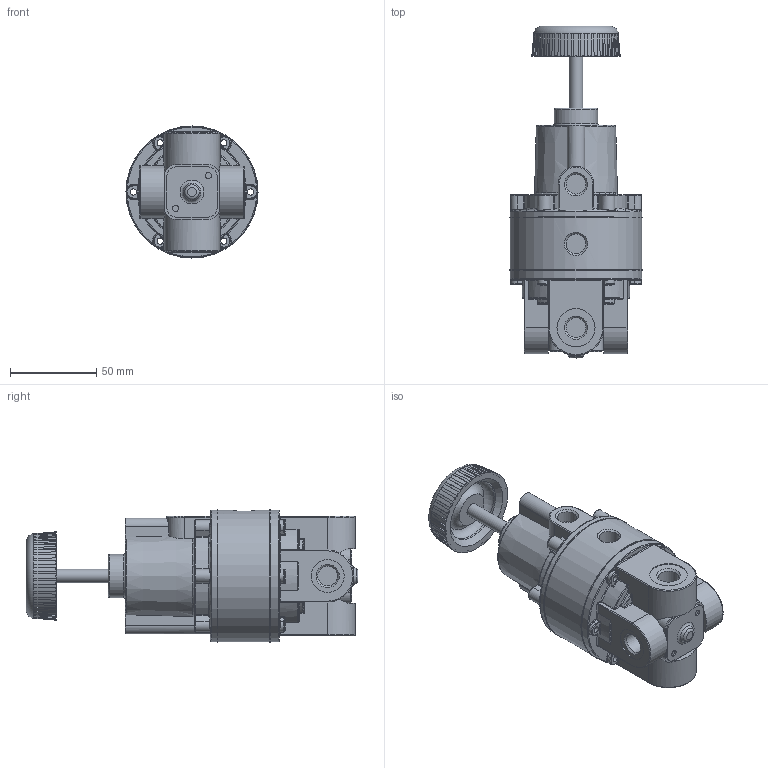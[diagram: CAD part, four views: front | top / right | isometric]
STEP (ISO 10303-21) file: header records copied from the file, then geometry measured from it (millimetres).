
FILE_DESCRIPTION(/* description */ (''),/* implementation_level */ '2;1');
FILE_NAME(/* name */ 'B-R250-02.step',/* time_stamp */ '2025-09-03T15:22:53+02:00',/* author */ (''),/* organization */ (''),/* preprocessor_version */ 'ST-DEVELOPER v20.1',/* originating_system */ 'Autodesk Translation Framework v14.10.0.0',/* authorisation */ '');
FILE_SCHEMA (('AUTOMOTIVE_DESIGN { 1 0 10303 214 3 1 1 }'));
Length unit declared in the file: millimetre
Products named in the file (1): B-R250
Bounding box: 76.39 x 192 x 76.39 mm (x, y, z)
Volume: 434968.9 mm3; surface area: 57248.4 mm2
Topology: 2 solids, 2 shells, 743 faces, 1755 edges, 1009 vertices
Faces by surface type: cylinder 244, plane 240, torus 117, bspline 111, sphere 21, cone 10
Full cylindrical faces by diameter (mm): 3.5 x2, 3.6 x6, 4.5 x6, 5 x2, 5.149 x1, 7.75 x1, 11.46 x4, 11.5 x2, 19 x2, 21.952 x1, 22 x1, 25 x1, 37 x1, 76 x3, 76.386 x1, 76.388 x1
Entity records: 32651 total; most frequent: CARTESIAN_POINT 16123, DIRECTION 3550, ORIENTED_EDGE 3444, EDGE_CURVE 1722, AXIS2_PLACEMENT_3D 1493, VERTEX_POINT 1009, CIRCLE 819, EDGE_LOOP 785
